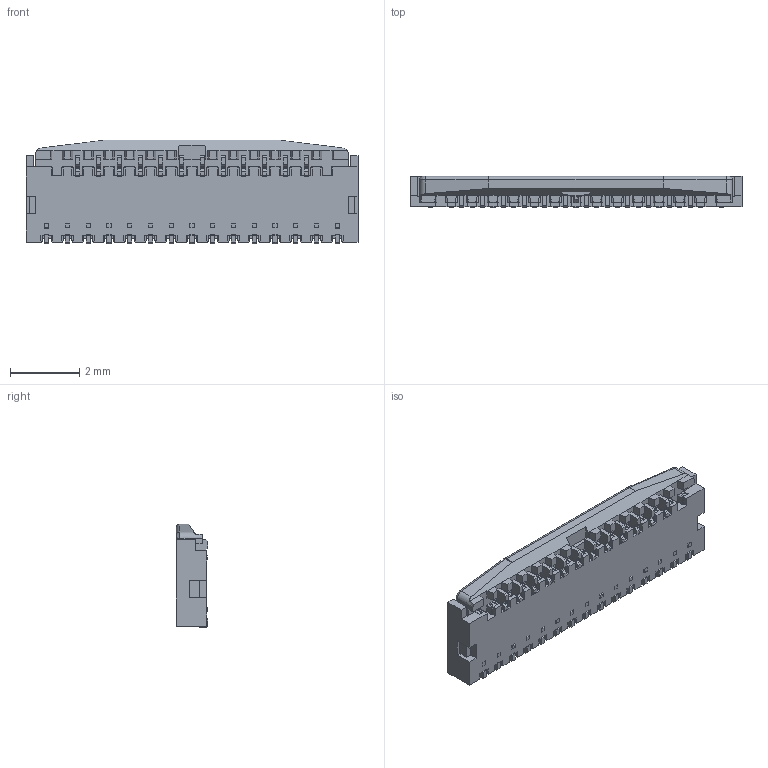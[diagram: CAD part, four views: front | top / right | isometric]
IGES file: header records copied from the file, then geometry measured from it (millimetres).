
Start section: SolidWorks IGES file using analytic representation for surfaces
Global section: file name: C:\Users\83197\OneDrive - I-PEX\デスクトップ\Exported\20599-025E-01C LK TYPE ACT CLOSE IGES R1 ALL.IGS; native system: SolidWorks 2023; preprocessor: SolidWorks 2023; author: 83197; date: 251117.133833; units: millimetre
Bounding box: 9.6 x 0.9 x 3 mm (x, y, z)
Surface area: 97.9 mm2 (no closed solid volume)
Topology: 0 solids, 0 shells, 1237 faces, 7414 edges, 7410 vertices
Faces by surface type: bspline 1071, revolution 166
